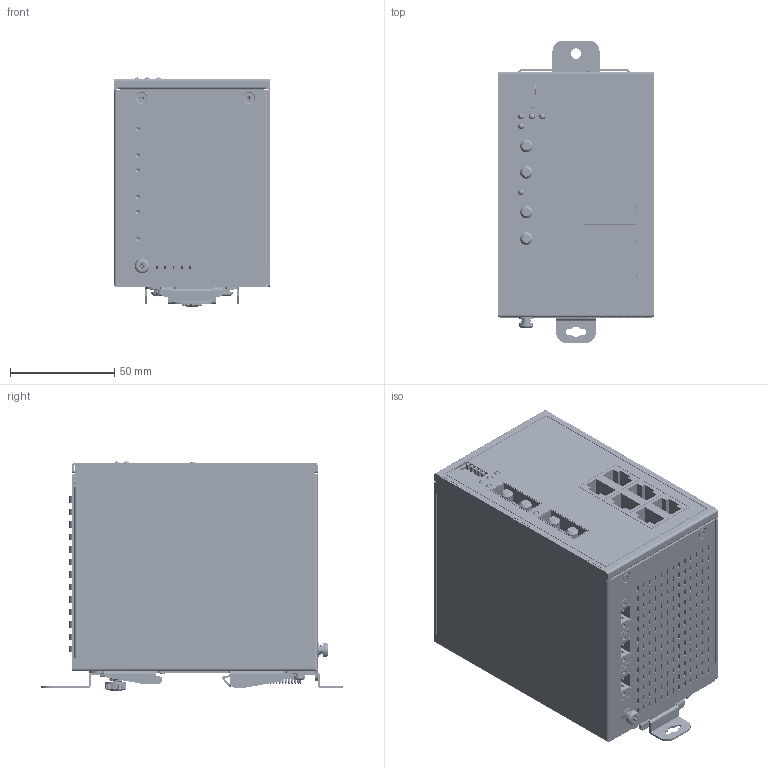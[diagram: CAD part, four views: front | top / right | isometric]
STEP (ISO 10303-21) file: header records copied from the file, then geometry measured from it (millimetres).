
FILE_DESCRIPTION((''),'2;1');
FILE_NAME('DVS-008W01-MC02_ASM','2014-12-08T',('ANDREW.AS.SUN'),(''),'PRO/ENGINEER BY PARAMETRIC TECHNOLOGY CORPORATION, 2010280','PRO/ENGINEER BY PARAMETRIC TECHNOLOGY CORPORATION, 2010280','');
FILE_SCHEMA(('CONFIG_CONTROL_DESIGN'));
Products named in the file (36): 3991140200_BASE; 3991140300_COVER; 3991140100_PANEL; STUD_M3_0; STUD_M3_0-S; 3991140200_BASE_ASM; PCB-M-8P; STAND_OFF_30; TB293; DIN-SWITCH-5PIN; 1X3_G-G; 1X1_LED; OPT-155B; MSD32_MALE_16; _DVS-008W01-MC02_PB_20120927_TO; _DVS-008W01-MC02_PB_20120927_BO; BOT_DVS-008W01-MC02_PCB_ASSY_ASM; PCB-M-16P; 307229417C; MSD232_FEMALE_16; _DVS-008W01-MC02-R_MB_20120927_; PRT0001; TOP_DVS-008W01-MC02_PCB_ASSY_ASM; 3205278601_NAMEPLATE; SCREW_M4; 3105460500; BACK_PLATE_2; SNAP; SPRING; SNAP_2; 46-111-501-1_20100903_; SNAP2_ASM; 3100320300-SCREW; NET8-675200A_INSULATOR; NET8-675100A_INSULATOR; DVS-008W01-MC02_ASM
Assembly tree (59 placements, depth 3):
  DVS-008W01-MC02_ASM
    3991140200_BASE
    3991140300_COVER
    3991140100_PANEL
    3991140200_BASE_ASM
      3991140200_BASE
      STUD_M3_0  x2
      STUD_M3_0-S  x2
    BOT_DVS-008W01-MC02_PCB_ASSY_ASM
      PCB-M-8P
      STAND_OFF_30  x4
      TB293  x3
      DIN-SWITCH-5PIN
      1X3_G-G
      1X1_LED  x2
      OPT-155B  x2
      MSD32_MALE_16
      _DVS-008W01-MC02_PB_20120927_TO
      _DVS-008W01-MC02_PB_20120927_BO
    TOP_DVS-008W01-MC02_PCB_ASSY_ASM
      PCB-M-16P
      307229417C  x3
      MSD232_FEMALE_16
      _DVS-008W01-MC02-R_MB_20120927_
      PRT0001
    3205278601_NAMEPLATE
    SCREW_M4
    3105460500  x10
    BACK_PLATE_2
    SNAP
    SPRING
    SNAP2_ASM
      SNAP_2
      46-111-501-1_20100903_
    3100320300-SCREW  x4
    NET8-675200A_INSULATOR
    NET8-675100A_INSULATOR
Bounding box: 75 x 145.3 x 110.12 mm (x, y, z)
Volume: 192366 mm3; surface area: 336664.3 mm2
Topology: 51 solids, 62 shells, 6694 faces, 17287 edges, 10941 vertices
Faces by surface type: plane 4742, cylinder 1413, bspline 297, cone 158, torus 74, sphere 10
Entity records: 158623 total; most frequent: CARTESIAN_POINT 44610, ORIENTED_EDGE 23585, DIRECTION 22415, EDGE_CURVE 11822, VECTOR 9341, LINE 9341, VERTEX_POINT 7426, AXIS2_PLACEMENT_3D 6537
